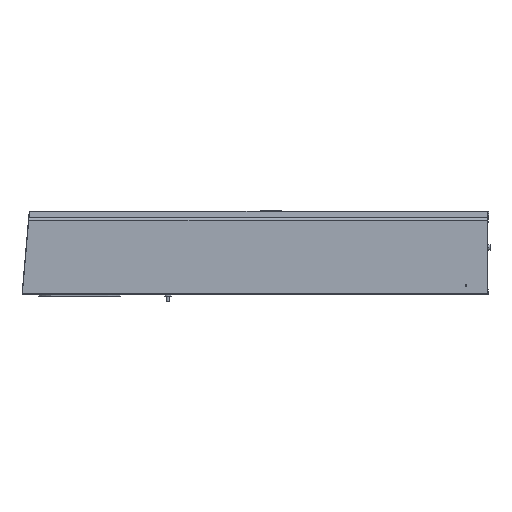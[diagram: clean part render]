
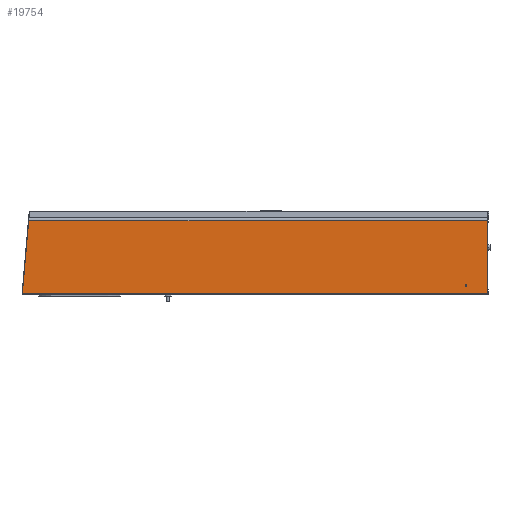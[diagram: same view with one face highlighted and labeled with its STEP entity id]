
A CAD part, left-side view. The second image highlights one B-rep face of the part: STEP entity #19754.
In plain terms, the highlighted planar face has unit normal (-1, 0, 0).
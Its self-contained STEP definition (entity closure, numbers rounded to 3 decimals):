
#850 = ORIENTED_EDGE ( 'NONE', *, *, #185185, .T. ) ;
#6202 = VERTEX_POINT ( 'NONE', #37288 ) ;
#9978 = VECTOR ( 'NONE', #133777, 1000. ) ;
#12458 = LINE ( 'NONE', #131733, #52794 ) ;
#14355 = EDGE_LOOP ( 'NONE', ( #850, #48015, #162012, #60695 ) ) ;
#15498 = LINE ( 'NONE', #162302, #9978 ) ;
#17208 = CARTESIAN_POINT ( 'NONE',  ( -242.5, 761.398, 1. ) ) ;
#17938 = ORIENTED_EDGE ( 'NONE', *, *, #184352, .F. ) ;
#19754 = ADVANCED_FACE ( 'NONE', ( #172382, #112315 ), #97544, .F. ) ;
#27208 = VERTEX_POINT ( 'NONE', #135781 ) ;
#28179 = LINE ( 'NONE', #189096, #111729 ) ;
#35120 = CIRCLE ( 'NONE', #66636, 2.5 ) ;
#37288 = CARTESIAN_POINT ( 'NONE',  ( -242.5, -756.602, 243.38 ) ) ;
#37593 = CARTESIAN_POINT ( 'NONE',  ( -242.5, -685.602, 28.8 ) ) ;
#38412 = DIRECTION ( 'NONE',  ( 1., 0., 0. ) ) ;
#48015 = ORIENTED_EDGE ( 'NONE', *, *, #59985, .F. ) ;
#49503 = DIRECTION ( 'NONE',  ( -1., 0., 0. ) ) ;
#50698 = CARTESIAN_POINT ( 'NONE',  ( -242.5, -756.602, 1. ) ) ;
#52794 = VECTOR ( 'NONE', #70687, 1000. ) ;
#59985 = EDGE_CURVE ( 'NONE', #147559, #6202, #12458, .T. ) ;
#60695 = ORIENTED_EDGE ( 'NONE', *, *, #103288, .T. ) ;
#66636 = AXIS2_PLACEMENT_3D ( 'NONE', #37593, #49503, #127235 ) ;
#67152 = CARTESIAN_POINT ( 'NONE',  ( -242.5, 764.983, 243.38 ) ) ;
#70687 = DIRECTION ( 'NONE',  ( 0., -1., 0. ) ) ;
#71461 = DIRECTION ( 'NONE',  ( -1., 0., 0. ) ) ;
#84666 = DIRECTION ( 'NONE',  ( 0., 0.087, -0.996 ) ) ;
#87961 = VECTOR ( 'NONE', #167937, 1000. ) ;
#97032 = AXIS2_PLACEMENT_3D ( 'NONE', #146283, #71461, #117706 ) ;
#97544 = PLANE ( 'NONE',  #156569 ) ;
#98496 = DIRECTION ( 'NONE',  ( 0., 0., -1. ) ) ;
#103288 = EDGE_CURVE ( 'NONE', #105463, #173839, #119775, .T. ) ;
#105463 = VERTEX_POINT ( 'NONE', #174817 ) ;
#109701 = CIRCLE ( 'NONE', #97032, 2.5 ) ;
#111729 = VECTOR ( 'NONE', #84666, 1000. ) ;
#112315 = FACE_OUTER_BOUND ( 'NONE', #14355, .T. ) ;
#117706 = DIRECTION ( 'NONE',  ( 0., 0., 1. ) ) ;
#119775 = LINE ( 'NONE', #17208, #87961 ) ;
#124251 = EDGE_LOOP ( 'NONE', ( #17938, #194561 ) ) ;
#127235 = DIRECTION ( 'NONE',  ( 0., 0., 1. ) ) ;
#127626 = VERTEX_POINT ( 'NONE', #185662 ) ;
#129437 = EDGE_CURVE ( 'NONE', #147559, #105463, #28179, .T. ) ;
#131733 = CARTESIAN_POINT ( 'NONE',  ( -242.5, 761.398, 243.38 ) ) ;
#133777 = DIRECTION ( 'NONE',  ( 0., 0., 1. ) ) ;
#135781 = CARTESIAN_POINT ( 'NONE',  ( -242.5, -685.602, 31.3 ) ) ;
#146283 = CARTESIAN_POINT ( 'NONE',  ( -242.5, -685.602, 28.8 ) ) ;
#147559 = VERTEX_POINT ( 'NONE', #67152 ) ;
#156569 = AXIS2_PLACEMENT_3D ( 'NONE', #173347, #38412, #98496 ) ;
#162012 = ORIENTED_EDGE ( 'NONE', *, *, #129437, .T. ) ;
#162302 = CARTESIAN_POINT ( 'NONE',  ( -242.5, -756.602, 243.38 ) ) ;
#167937 = DIRECTION ( 'NONE',  ( 0., -1., 0. ) ) ;
#172382 = FACE_BOUND ( 'NONE', #124251, .T. ) ;
#173347 = CARTESIAN_POINT ( 'NONE',  ( -242.5, 761.398, 243.38 ) ) ;
#173533 = EDGE_CURVE ( 'NONE', #127626, #27208, #109701, .T. ) ;
#173839 = VERTEX_POINT ( 'NONE', #50698 ) ;
#174817 = CARTESIAN_POINT ( 'NONE',  ( -242.5, 786.189, 1. ) ) ;
#184352 = EDGE_CURVE ( 'NONE', #27208, #127626, #35120, .T. ) ;
#185185 = EDGE_CURVE ( 'NONE', #173839, #6202, #15498, .T. ) ;
#185662 = CARTESIAN_POINT ( 'NONE',  ( -242.5, -685.602, 26.3 ) ) ;
#189096 = CARTESIAN_POINT ( 'NONE',  ( -242.5, 788.241, -22.454 ) ) ;
#194561 = ORIENTED_EDGE ( 'NONE', *, *, #173533, .F. ) ;
